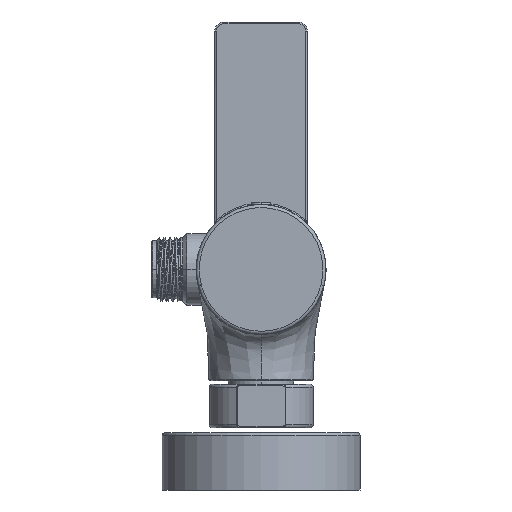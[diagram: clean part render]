
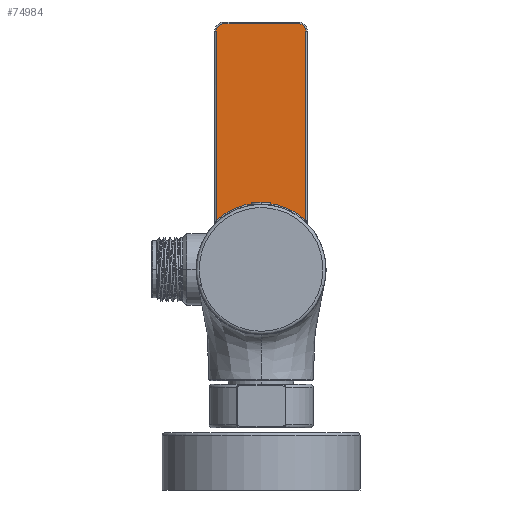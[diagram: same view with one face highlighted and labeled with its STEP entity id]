
A CAD part, left-side view. The second image highlights one B-rep face of the part: STEP entity #74984.
In plain terms, the highlighted planar face has unit normal (-1, 0, 0).
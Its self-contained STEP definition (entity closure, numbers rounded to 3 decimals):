
#65577=CARTESIAN_POINT('',(221.1,-14.5,
15.875));
#65579=DIRECTION('',(0.,0.,-1.));
#65580=VECTOR('',#65579,61.125);
#65581=CARTESIAN_POINT('',(221.1,14.5,77.));
#65582=LINE('',#65581,#65580);
#65583=CARTESIAN_POINT('',(221.1,12.,77.));
#65584=DIRECTION('',(-1.,0.,0.));
#65585=DIRECTION('',(0.,0.,1.));
#65586=AXIS2_PLACEMENT_3D('',#65583,#65584,#65585);
#65588=DIRECTION('',(0.,1.,0.));
#65589=VECTOR('',#65588,24.);
#65590=CARTESIAN_POINT('',(221.1,-12.,79.5));
#65591=LINE('',#65590,#65589);
#65592=CARTESIAN_POINT('',(221.1,-12.,77.));
#65593=DIRECTION('',(-1.,0.,0.));
#65594=DIRECTION('',(0.,-1.,0.));
#65595=AXIS2_PLACEMENT_3D('',#65592,#65593,#65594);
#65597=DIRECTION('',(0.,0.,1.));
#65598=VECTOR('',#65597,61.125);
#65599=CARTESIAN_POINT('',(221.1,-14.5,
15.875));
#65600=LINE('',#65599,#65598);
#65601=CARTESIAN_POINT('',(221.1,0.,0.));
#65602=DIRECTION('',(1.,0.,0.));
#65603=DIRECTION('',(0.,0.674,0.738));
#65604=AXIS2_PLACEMENT_3D('',#65601,#65602,#65603);
#65654=CARTESIAN_POINT('',(221.1,14.5,15.875));
#66829=CARTESIAN_POINT('',(221.1,12.,79.5));
#66830=CARTESIAN_POINT('',(221.1,14.5,77.));
#66831=VERTEX_POINT('',#66829);
#66832=VERTEX_POINT('',#66830);
#66837=CARTESIAN_POINT('',(221.1,-12.,79.5));
#66838=VERTEX_POINT('',#66837);
#66841=CARTESIAN_POINT('',(221.1,-14.5,77.));
#66842=VERTEX_POINT('',#66841);
#66901=VERTEX_POINT('',#65654);
#66907=VERTEX_POINT('',#65577);
#74966=CARTESIAN_POINT('',(221.1,0.,0.));
#74967=DIRECTION('',(1.,0.,0.));
#74968=DIRECTION('',(0.,0.,1.));
#74969=AXIS2_PLACEMENT_3D('',#74966,#74967,#74968);
#74970=PLANE('',#74969);
#74972=ORIENTED_EDGE('',*,*,#74971,.F.);
#74974=ORIENTED_EDGE('',*,*,#74973,.F.);
#74976=ORIENTED_EDGE('',*,*,#74975,.F.);
#74978=ORIENTED_EDGE('',*,*,#74977,.F.);
#74980=ORIENTED_EDGE('',*,*,#74979,.F.);
#74981=ORIENTED_EDGE('',*,*,#74957,.F.);
#74982=EDGE_LOOP('',(#74972,#74974,#74976,#74978,#74980,#74981));
#74983=FACE_OUTER_BOUND('',#74982,.F.);
#74984=ADVANCED_FACE('',(#74983),#74970,.F.);
#65587=CIRCLE('',#65586,2.5);
#65596=CIRCLE('',#65595,2.5);
#65605=CIRCLE('',#65604,21.5);
#74957=EDGE_CURVE('',#66907,#66842,#65600,.T.);
#74971=EDGE_CURVE('',#66901,#66907,#65605,.T.);
#74973=EDGE_CURVE('',#66832,#66901,#65582,.T.);
#74975=EDGE_CURVE('',#66831,#66832,#65587,.T.);
#74977=EDGE_CURVE('',#66838,#66831,#65591,.T.);
#74979=EDGE_CURVE('',#66842,#66838,#65596,.T.);
